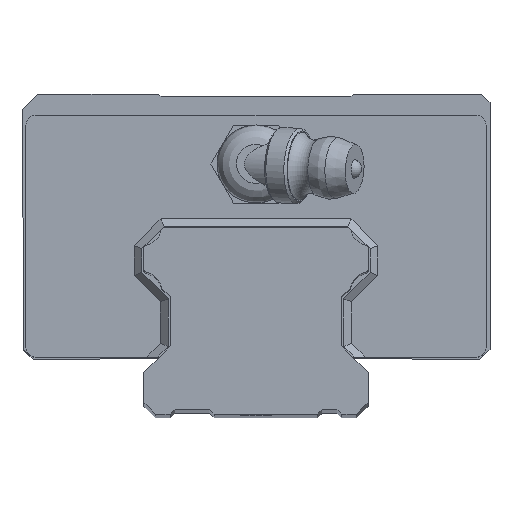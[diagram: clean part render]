
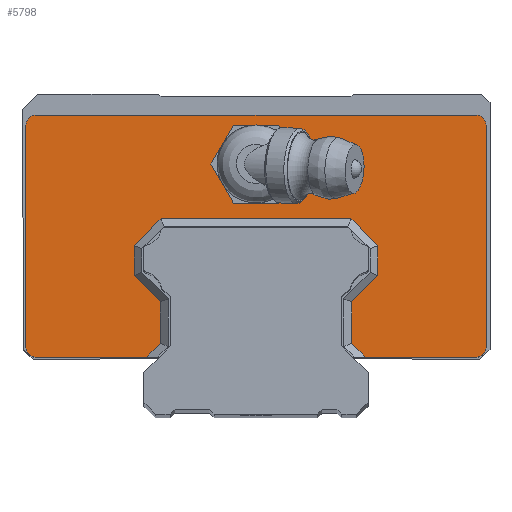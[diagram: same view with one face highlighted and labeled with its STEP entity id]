
A CAD part, top view. The second image highlights one B-rep face of the part: STEP entity #5798.
In plain terms, the highlighted planar face has unit normal (0, 0, 1).
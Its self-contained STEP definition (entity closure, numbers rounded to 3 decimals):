
#5415=CARTESIAN_POINT('',(2436.426,-3989.461,-50674.684));
#5416=VERTEX_POINT('',#5415);
#5417=CARTESIAN_POINT('',(2441.045,-3989.461,-50674.684));
#5418=VERTEX_POINT('',#5417);
#5419=CARTESIAN_POINT('',(2436.426,-3989.461,-50674.684));
#5420=DIRECTION('',(1.0,0.0,0.0));
#5421=VECTOR('',#5420,4.619);
#5422=LINE('',#5419,#5421);
#5423=EDGE_CURVE('',#5416,#5418,#5422,.T.);
#5447=CARTESIAN_POINT('',(2434.117,-3993.461,-50674.684));
#5448=VERTEX_POINT('',#5447);
#5449=CARTESIAN_POINT('',(2434.117,-3993.461,-50674.684));
#5450=DIRECTION('',(0.5,0.866,0.0));
#5451=VECTOR('',#5450,4.619);
#5452=LINE('',#5449,#5451);
#5453=EDGE_CURVE('',#5448,#5416,#5452,.T.);
#5472=CARTESIAN_POINT('',(2436.426,-3997.461,-50674.684));
#5473=VERTEX_POINT('',#5472);
#5474=CARTESIAN_POINT('',(2436.426,-3997.461,-50674.684));
#5475=DIRECTION('',(-0.5,0.866,0.0));
#5476=VECTOR('',#5475,4.619);
#5477=LINE('',#5474,#5476);
#5478=EDGE_CURVE('',#5473,#5448,#5477,.T.);
#5504=CARTESIAN_POINT('',(2441.045,-3997.461,-50674.684));
#5505=VERTEX_POINT('',#5504);
#5506=CARTESIAN_POINT('',(2441.045,-3997.461,-50674.684));
#5507=DIRECTION('',(-1.0,0.0,0.0));
#5508=VECTOR('',#5507,4.619);
#5509=LINE('',#5506,#5508);
#5510=EDGE_CURVE('',#5505,#5473,#5509,.T.);
#5534=CARTESIAN_POINT('',(2443.354,-3993.461,-50674.684));
#5535=VERTEX_POINT('',#5534);
#5536=CARTESIAN_POINT('',(2443.354,-3993.461,-50674.684));
#5537=DIRECTION('',(-0.5,-0.866,0.0));
#5538=VECTOR('',#5537,4.619);
#5539=LINE('',#5536,#5538);
#5540=EDGE_CURVE('',#5535,#5505,#5539,.T.);
#5559=CARTESIAN_POINT('',(2441.045,-3989.461,-50674.684));
#5560=DIRECTION('',(0.5,-0.866,0.0));
#5561=VECTOR('',#5560,4.619);
#5562=LINE('',#5559,#5561);
#5563=EDGE_CURVE('',#5418,#5535,#5562,.T.);
#5619=CARTESIAN_POINT('',(2416.135,-4012.261,-50674.684));
#5620=DIRECTION('',(0.0,0.0,1.0));
#5621=DIRECTION('',(1.0,0.0,0.0));
#5622=AXIS2_PLACEMENT_3D('',#5619,#5620,#5621);
#5623=PLANE('',#5622);
#5624=CARTESIAN_POINT('',(2448.535,-4011.846,-50674.684));
#5625=VERTEX_POINT('',#5624);
#5626=CARTESIAN_POINT('',(2448.535,-4007.595,-50674.684));
#5627=VERTEX_POINT('',#5626);
#5628=CARTESIAN_POINT('',(2448.535,-4011.846,-50674.684));
#5629=DIRECTION('',(0.0,1.0,0.0));
#5630=VECTOR('',#5629,4.251);
#5631=LINE('',#5628,#5630);
#5632=EDGE_CURVE('',#5625,#5627,#5631,.T.);
#5633=ORIENTED_EDGE('',*,*,#5632,.F.);
#5634=CARTESIAN_POINT('',(2449.95,-4013.261,-50674.684));
#5635=VERTEX_POINT('',#5634);
#5636=CARTESIAN_POINT('',(2449.95,-4013.261,-50674.684));
#5637=DIRECTION('',(-0.707,0.707,0.0));
#5638=VECTOR('',#5637,2.);
#5639=LINE('',#5636,#5638);
#5640=EDGE_CURVE('',#5635,#5625,#5639,.T.);
#5641=ORIENTED_EDGE('',*,*,#5640,.F.);
#5642=CARTESIAN_POINT('',(2461.335,-4013.261,-50674.684));
#5643=VERTEX_POINT('',#5642);
#5644=CARTESIAN_POINT('',(2449.95,-4013.261,-50674.684));
#5645=DIRECTION('',(1.0,0.0,0.0));
#5646=VECTOR('',#5645,11.386);
#5647=LINE('',#5644,#5646);
#5648=EDGE_CURVE('',#5635,#5643,#5647,.T.);
#5649=ORIENTED_EDGE('',*,*,#5648,.T.);
#5650=CARTESIAN_POINT('',(2462.335,-4012.261,-50674.684));
#5651=VERTEX_POINT('',#5650);
#5652=CARTESIAN_POINT('',(2461.335,-4012.261,-50674.684));
#5653=DIRECTION('',(0.0,0.0,1.0));
#5654=DIRECTION('',(1.0,0.0,0.0));
#5655=AXIS2_PLACEMENT_3D('',#5652,#5653,#5654);
#5656=CIRCLE('',#5655,1.);
#5657=EDGE_CURVE('',#5643,#5651,#5656,.T.);
#5658=ORIENTED_EDGE('',*,*,#5657,.T.);
#5659=CARTESIAN_POINT('',(2462.335,-3989.461,-50674.684));
#5660=VERTEX_POINT('',#5659);
#5661=CARTESIAN_POINT('',(2462.335,-4012.261,-50674.684));
#5662=DIRECTION('',(0.0,1.0,0.0));
#5663=VECTOR('',#5662,22.8);
#5664=LINE('',#5661,#5663);
#5665=EDGE_CURVE('',#5651,#5660,#5664,.T.);
#5666=ORIENTED_EDGE('',*,*,#5665,.T.);
#5667=CARTESIAN_POINT('',(2461.335,-3988.461,-50674.684));
#5668=VERTEX_POINT('',#5667);
#5669=CARTESIAN_POINT('',(2461.335,-3989.461,-50674.684));
#5670=DIRECTION('',(0.0,0.0,1.0));
#5671=DIRECTION('',(1.0,0.0,0.0));
#5672=AXIS2_PLACEMENT_3D('',#5669,#5670,#5671);
#5673=CIRCLE('',#5672,1.);
#5674=EDGE_CURVE('',#5660,#5668,#5673,.T.);
#5675=ORIENTED_EDGE('',*,*,#5674,.T.);
#5676=CARTESIAN_POINT('',(2416.135,-3988.461,-50674.684));
#5677=VERTEX_POINT('',#5676);
#5678=CARTESIAN_POINT('',(2461.335,-3988.461,-50674.684));
#5679=DIRECTION('',(-1.0,0.0,0.0));
#5680=VECTOR('',#5679,45.2);
#5681=LINE('',#5678,#5680);
#5682=EDGE_CURVE('',#5668,#5677,#5681,.T.);
#5683=ORIENTED_EDGE('',*,*,#5682,.T.);
#5684=CARTESIAN_POINT('',(2415.135,-3989.461,-50674.684));
#5685=VERTEX_POINT('',#5684);
#5686=CARTESIAN_POINT('',(2416.135,-3989.461,-50674.684));
#5687=DIRECTION('',(0.0,0.0,1.0));
#5688=DIRECTION('',(1.0,0.0,0.0));
#5689=AXIS2_PLACEMENT_3D('',#5686,#5687,#5688);
#5690=CIRCLE('',#5689,1.);
#5691=EDGE_CURVE('',#5677,#5685,#5690,.T.);
#5692=ORIENTED_EDGE('',*,*,#5691,.T.);
#5693=CARTESIAN_POINT('',(2415.135,-4012.261,-50674.684));
#5694=VERTEX_POINT('',#5693);
#5695=CARTESIAN_POINT('',(2415.135,-3989.461,-50674.684));
#5696=DIRECTION('',(0.0,-1.0,0.0));
#5697=VECTOR('',#5696,22.8);
#5698=LINE('',#5695,#5697);
#5699=EDGE_CURVE('',#5685,#5694,#5698,.T.);
#5700=ORIENTED_EDGE('',*,*,#5699,.T.);
#5701=CARTESIAN_POINT('',(2416.135,-4013.261,-50674.684));
#5702=VERTEX_POINT('',#5701);
#5703=CARTESIAN_POINT('',(2416.135,-4012.261,-50674.684));
#5704=DIRECTION('',(0.0,0.0,1.0));
#5705=DIRECTION('',(1.0,0.0,0.0));
#5706=AXIS2_PLACEMENT_3D('',#5703,#5704,#5705);
#5707=CIRCLE('',#5706,1.);
#5708=EDGE_CURVE('',#5694,#5702,#5707,.T.);
#5709=ORIENTED_EDGE('',*,*,#5708,.T.);
#5710=CARTESIAN_POINT('',(2427.521,-4013.261,-50674.684));
#5711=VERTEX_POINT('',#5710);
#5712=CARTESIAN_POINT('',(2416.135,-4013.261,-50674.684));
#5713=DIRECTION('',(1.0,0.0,0.0));
#5714=VECTOR('',#5713,11.386);
#5715=LINE('',#5712,#5714);
#5716=EDGE_CURVE('',#5702,#5711,#5715,.T.);
#5717=ORIENTED_EDGE('',*,*,#5716,.T.);
#5718=CARTESIAN_POINT('',(2428.935,-4011.846,-50674.684));
#5719=VERTEX_POINT('',#5718);
#5720=CARTESIAN_POINT('',(2428.935,-4011.846,-50674.684));
#5721=DIRECTION('',(-0.707,-0.707,0.0));
#5722=VECTOR('',#5721,2.);
#5723=LINE('',#5720,#5722);
#5724=EDGE_CURVE('',#5719,#5711,#5723,.T.);
#5725=ORIENTED_EDGE('',*,*,#5724,.F.);
#5726=CARTESIAN_POINT('',(2428.935,-4007.595,-50674.684));
#5727=VERTEX_POINT('',#5726);
#5728=CARTESIAN_POINT('',(2428.935,-4007.595,-50674.684));
#5729=DIRECTION('',(0.0,-1.0,0.0));
#5730=VECTOR('',#5729,4.251);
#5731=LINE('',#5728,#5730);
#5732=EDGE_CURVE('',#5727,#5719,#5731,.T.);
#5733=ORIENTED_EDGE('',*,*,#5732,.F.);
#5734=CARTESIAN_POINT('',(2426.235,-4004.895,-50674.684));
#5735=VERTEX_POINT('',#5734);
#5736=CARTESIAN_POINT('',(2426.235,-4004.895,-50674.684));
#5737=DIRECTION('',(0.707,-0.707,0.0));
#5738=VECTOR('',#5737,3.819);
#5739=LINE('',#5736,#5738);
#5740=EDGE_CURVE('',#5735,#5727,#5739,.T.);
#5741=ORIENTED_EDGE('',*,*,#5740,.F.);
#5742=CARTESIAN_POINT('',(2426.235,-4001.823,-50674.684));
#5743=VERTEX_POINT('',#5742);
#5744=CARTESIAN_POINT('',(2426.235,-4001.823,-50674.684));
#5745=DIRECTION('',(0.0,-1.0,0.0));
#5746=VECTOR('',#5745,3.071);
#5747=LINE('',#5744,#5746);
#5748=EDGE_CURVE('',#5743,#5735,#5747,.T.);
#5749=ORIENTED_EDGE('',*,*,#5748,.F.);
#5750=CARTESIAN_POINT('',(2428.998,-3999.061,-50674.684));
#5751=VERTEX_POINT('',#5750);
#5752=CARTESIAN_POINT('',(2428.998,-3999.061,-50674.684));
#5753=DIRECTION('',(-0.707,-0.707,0.0));
#5754=VECTOR('',#5753,3.907);
#5755=LINE('',#5752,#5754);
#5756=EDGE_CURVE('',#5751,#5743,#5755,.T.);
#5757=ORIENTED_EDGE('',*,*,#5756,.F.);
#5758=CARTESIAN_POINT('',(2448.473,-3999.061,-50674.684));
#5759=VERTEX_POINT('',#5758);
#5760=CARTESIAN_POINT('',(2448.473,-3999.061,-50674.684));
#5761=DIRECTION('',(-1.0,0.0,0.0));
#5762=VECTOR('',#5761,19.475);
#5763=LINE('',#5760,#5762);
#5764=EDGE_CURVE('',#5759,#5751,#5763,.T.);
#5765=ORIENTED_EDGE('',*,*,#5764,.F.);
#5766=CARTESIAN_POINT('',(2451.236,-4001.823,-50674.684));
#5767=VERTEX_POINT('',#5766);
#5768=CARTESIAN_POINT('',(2451.236,-4001.823,-50674.684));
#5769=DIRECTION('',(-0.707,0.707,0.0));
#5770=VECTOR('',#5769,3.907);
#5771=LINE('',#5768,#5770);
#5772=EDGE_CURVE('',#5767,#5759,#5771,.T.);
#5773=ORIENTED_EDGE('',*,*,#5772,.F.);
#5774=CARTESIAN_POINT('',(2451.236,-4004.895,-50674.684));
#5775=VERTEX_POINT('',#5774);
#5776=CARTESIAN_POINT('',(2451.236,-4004.895,-50674.684));
#5777=DIRECTION('',(0.,1.0,0.0));
#5778=VECTOR('',#5777,3.071);
#5779=LINE('',#5776,#5778);
#5780=EDGE_CURVE('',#5775,#5767,#5779,.T.);
#5781=ORIENTED_EDGE('',*,*,#5780,.F.);
#5782=CARTESIAN_POINT('',(2448.535,-4007.595,-50674.684));
#5783=DIRECTION('',(0.707,0.707,0.0));
#5784=VECTOR('',#5783,3.819);
#5785=LINE('',#5782,#5784);
#5786=EDGE_CURVE('',#5627,#5775,#5785,.T.);
#5787=ORIENTED_EDGE('',*,*,#5786,.F.);
#5788=EDGE_LOOP('',(#5633,#5641,#5649,#5658,#5666,#5675,#5683,#5692,#5700,#5709,#5717,#5725,#5733,#5741,#5749,#5757,#5765,#5773,#5781,#5787));
#5789=FACE_OUTER_BOUND('',#5788,.T.);
#5790=ORIENTED_EDGE('',*,*,#5423,.T.);
#5791=ORIENTED_EDGE('',*,*,#5563,.T.);
#5792=ORIENTED_EDGE('',*,*,#5540,.T.);
#5793=ORIENTED_EDGE('',*,*,#5510,.T.);
#5794=ORIENTED_EDGE('',*,*,#5478,.T.);
#5795=ORIENTED_EDGE('',*,*,#5453,.T.);
#5796=EDGE_LOOP('',(#5790,#5791,#5792,#5793,#5794,#5795));
#5797=FACE_BOUND('',#5796,.T.);
#5798=ADVANCED_FACE('',(#5789,#5797),#5623,.T.);
